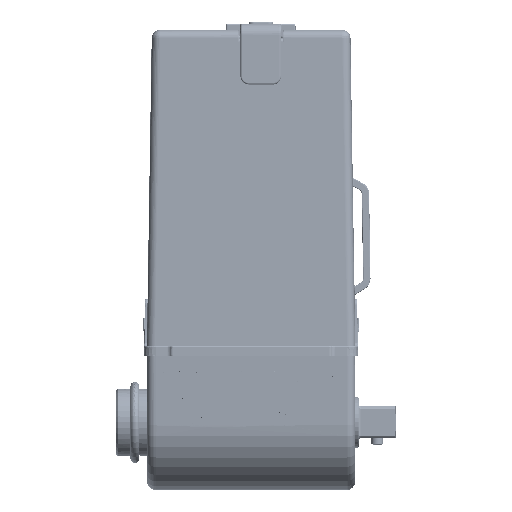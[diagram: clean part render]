
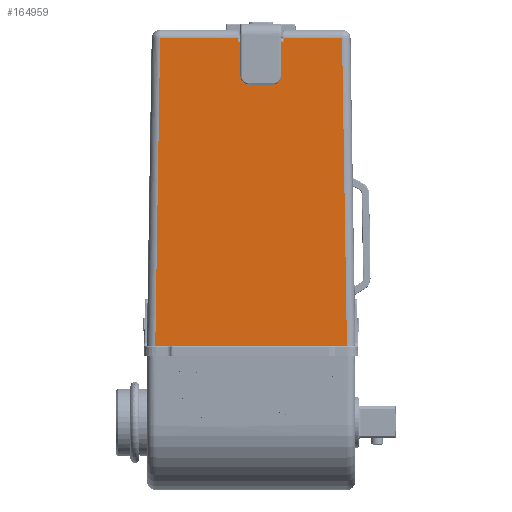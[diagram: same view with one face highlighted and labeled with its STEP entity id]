
A CAD part, left-side view. The second image highlights one B-rep face of the part: STEP entity #164959.
In plain terms, the highlighted planar face has unit normal (-1, 0, 0.016).
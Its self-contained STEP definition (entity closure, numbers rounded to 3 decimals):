
#13587=CARTESIAN_POINT('',(-19.316,-8.752,
102.333));
#13588=CARTESIAN_POINT('',(-19.319,-8.752,
102.12));
#13589=CARTESIAN_POINT('',(-19.325,-8.696,
101.711));
#13590=CARTESIAN_POINT('',(-19.334,-8.454,
101.127));
#13591=CARTESIAN_POINT('',(-19.342,-8.07,
100.629));
#13592=CARTESIAN_POINT('',(-19.348,-7.571,
100.247));
#13593=CARTESIAN_POINT('',(-19.352,-6.987,
100.006));
#13594=CARTESIAN_POINT('',(-19.353,-6.578,
99.952));
#13595=CARTESIAN_POINT('',(-19.353,-6.365,
99.952));
#13612=CARTESIAN_POINT('',(-19.316,-8.752,
102.333));
#13613=CARTESIAN_POINT('',(-19.262,-8.761,
105.727));
#13614=CARTESIAN_POINT('',(-19.209,-8.768,
109.121));
#13615=CARTESIAN_POINT('',(-19.156,-8.775,
112.516));
#13617=DIRECTION('',(-0.016,-0.016,-1.));
#13618=VECTOR('',#13617,91.062);
#13619=CARTESIAN_POINT('',(-19.139,-26.89,
113.539));
#13620=LINE('',#13619,#13618);
#13621=DIRECTION('',(0.016,-0.016,1.));
#13622=VECTOR('',#13621,91.062);
#13623=CARTESIAN_POINT('',(-20.57,28.32,
22.5));
#13624=LINE('',#13623,#13622);
#13649=DIRECTION('',(0.,1.,0.));
#13650=VECTOR('',#13649,0.823);
#13651=CARTESIAN_POINT('',(-19.156,3.045,
112.516));
#13652=LINE('',#13651,#13650);
#13671=DIRECTION('',(0.,1.,0.));
#13672=VECTOR('',#13671,0.823);
#13673=CARTESIAN_POINT('',(-19.156,-9.598,
112.516));
#13674=LINE('',#13673,#13672);
#13675=CARTESIAN_POINT('',(-19.316,3.022,
102.333));
#13676=CARTESIAN_POINT('',(-19.298,3.025,
103.464));
#13677=CARTESIAN_POINT('',(-19.262,3.039,
105.727));
#13678=CARTESIAN_POINT('',(-19.209,3.028,
109.121));
#13679=CARTESIAN_POINT('',(-19.173,3.043,
111.384));
#13680=CARTESIAN_POINT('',(-19.156,3.045,
112.516));
#13702=CARTESIAN_POINT('',(-19.353,0.635,
99.952));
#13703=CARTESIAN_POINT('',(-19.353,0.848,
99.952));
#13704=CARTESIAN_POINT('',(-19.352,1.257,
100.006));
#13705=CARTESIAN_POINT('',(-19.348,1.841,
100.247));
#13706=CARTESIAN_POINT('',(-19.342,2.34,
100.629));
#13707=CARTESIAN_POINT('',(-19.334,2.724,
101.127));
#13708=CARTESIAN_POINT('',(-19.325,2.966,
101.711));
#13709=CARTESIAN_POINT('',(-19.319,3.022,
102.12));
#13710=CARTESIAN_POINT('',(-19.316,3.022,
102.333));
#13768=DIRECTION('',(0.,1.,0.));
#13769=VECTOR('',#13768,7.);
#13770=CARTESIAN_POINT('',(-19.353,-6.365,
99.952));
#13771=LINE('',#13770,#13769);
#13776=DIRECTION('',(0.016,0.017,1.));
#13777=VECTOR('',#13776,1.024);
#13778=CARTESIAN_POINT('',(-19.156,3.868,
112.516));
#13779=LINE('',#13778,#13777);
#13838=DIRECTION('',(0.,1.,0.));
#13839=VECTOR('',#13838,23.004);
#13840=CARTESIAN_POINT('',(-19.139,3.886,
113.539));
#13841=LINE('',#13840,#13839);
#13873=DIRECTION('',(0.,-1.,0.));
#13874=VECTOR('',#13873,56.64);
#13875=CARTESIAN_POINT('',(-20.57,28.32,
22.5));
#13876=LINE('',#13875,#13874);
#13904=CARTESIAN_POINT('',(-20.57,28.32,
22.5));
#109751=DIRECTION('',(0.,1.,0.));
#109752=VECTOR('',#109751,17.274);
#109753=CARTESIAN_POINT('',(-19.139,-26.89,
113.539));
#109754=LINE('',#109753,#109752);
#109775=DIRECTION('',(-0.016,0.017,-1.));
#109776=VECTOR('',#109775,1.024);
#109777=CARTESIAN_POINT('',(-19.139,-9.616,
113.539));
#109778=LINE('',#109777,#109776);
#113687=VERTEX_POINT('',#13904);
#113688=CARTESIAN_POINT('',(-19.139,26.89,
113.539));
#113689=VERTEX_POINT('',#113688);
#113690=CARTESIAN_POINT('',(-20.57,-28.32,
22.5));
#113691=VERTEX_POINT('',#113690);
#113709=VERTEX_POINT('',#13612);
#113710=VERTEX_POINT('',#13615);
#113711=CARTESIAN_POINT('',(-19.156,-9.598,
112.516));
#113712=VERTEX_POINT('',#113711);
#113713=CARTESIAN_POINT('',(-19.139,-9.616,
113.539));
#113714=VERTEX_POINT('',#113713);
#113715=CARTESIAN_POINT('',(-19.139,-26.89,
113.539));
#113716=VERTEX_POINT('',#113715);
#113717=CARTESIAN_POINT('',(-19.139,3.886,
113.539));
#113718=VERTEX_POINT('',#113717);
#113719=CARTESIAN_POINT('',(-19.156,3.868,
112.516));
#113720=VERTEX_POINT('',#113719);
#113721=CARTESIAN_POINT('',(-19.156,3.045,
112.516));
#113722=VERTEX_POINT('',#113721);
#113723=VERTEX_POINT('',#13675);
#113724=VERTEX_POINT('',#13702);
#113725=CARTESIAN_POINT('',(-19.353,-6.365,
99.952));
#113726=VERTEX_POINT('',#113725);
#164925=CARTESIAN_POINT('',(-20.5,31.896,26.932));
#164926=DIRECTION('',(-1.,0.,0.016));
#164927=DIRECTION('',(0.,1.,0.));
#164928=AXIS2_PLACEMENT_3D('',#164925,#164926,#164927);
#164929=PLANE('',#164928);
#164931=ORIENTED_EDGE('',*,*,#164930,.T.);
#164933=ORIENTED_EDGE('',*,*,#164932,.F.);
#164935=ORIENTED_EDGE('',*,*,#164934,.F.);
#164937=ORIENTED_EDGE('',*,*,#164936,.F.);
#164939=ORIENTED_EDGE('',*,*,#164938,.T.);
#164941=ORIENTED_EDGE('',*,*,#164940,.F.);
#164943=ORIENTED_EDGE('',*,*,#164942,.T.);
#164945=ORIENTED_EDGE('',*,*,#164944,.F.);
#164947=ORIENTED_EDGE('',*,*,#164946,.F.);
#164949=ORIENTED_EDGE('',*,*,#164948,.F.);
#164951=ORIENTED_EDGE('',*,*,#164950,.F.);
#164953=ORIENTED_EDGE('',*,*,#164952,.F.);
#164955=ORIENTED_EDGE('',*,*,#164954,.F.);
#164956=ORIENTED_EDGE('',*,*,#164908,.F.);
#164957=EDGE_LOOP('',(#164931,#164933,#164935,#164937,#164939,#164941,#164943,
#164945,#164947,#164949,#164951,#164953,#164955,#164956));
#164958=FACE_OUTER_BOUND('',#164957,.F.);
#13596=B_SPLINE_CURVE_WITH_KNOTS('',3,(#13587,#13588,#13589,#13590,#13591,
#13592,#13593,#13594,#13595),.UNSPECIFIED.,.F.,.F.,(4,1,1,1,1,1,4),(0.,
0.167,0.333,0.5,0.667,0.833,
1.),.UNSPECIFIED.);
#13616=B_SPLINE_CURVE_WITH_KNOTS('',3,(#13612,#13613,#13614,#13615),
.UNSPECIFIED.,.F.,.F.,(4,4),(0.,1.),.UNSPECIFIED.);
#13681=B_SPLINE_CURVE_WITH_KNOTS('',3,(#13675,#13676,#13677,#13678,#13679,
#13680),.UNSPECIFIED.,.F.,.F.,(4,1,1,4),(0.,0.333,
0.667,1.),.UNSPECIFIED.);
#13711=B_SPLINE_CURVE_WITH_KNOTS('',3,(#13702,#13703,#13704,#13705,#13706,
#13707,#13708,#13709,#13710),.UNSPECIFIED.,.F.,.F.,(4,1,1,1,1,1,4),(0.,
0.167,0.333,0.5,0.667,0.833,
1.),.UNSPECIFIED.);
#164908=EDGE_CURVE('',#113709,#113726,#13596,.T.);
#164930=EDGE_CURVE('',#113709,#113710,#13616,.T.);
#164932=EDGE_CURVE('',#113712,#113710,#13674,.T.);
#164934=EDGE_CURVE('',#113714,#113712,#109778,.T.);
#164936=EDGE_CURVE('',#113716,#113714,#109754,.T.);
#164938=EDGE_CURVE('',#113716,#113691,#13620,.T.);
#164940=EDGE_CURVE('',#113687,#113691,#13876,.T.);
#164942=EDGE_CURVE('',#113687,#113689,#13624,.T.);
#164944=EDGE_CURVE('',#113718,#113689,#13841,.T.);
#164946=EDGE_CURVE('',#113720,#113718,#13779,.T.);
#164948=EDGE_CURVE('',#113722,#113720,#13652,.T.);
#164950=EDGE_CURVE('',#113723,#113722,#13681,.T.);
#164952=EDGE_CURVE('',#113724,#113723,#13711,.T.);
#164954=EDGE_CURVE('',#113726,#113724,#13771,.T.);
#164959=ADVANCED_FACE('',(#164958),#164929,.T.);
